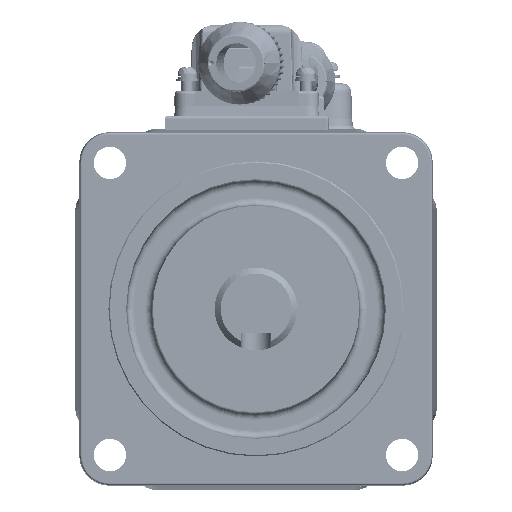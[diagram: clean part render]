
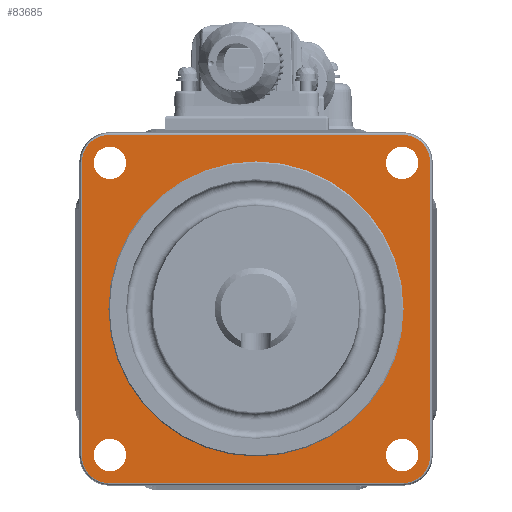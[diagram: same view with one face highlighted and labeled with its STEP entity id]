
A CAD part, front view. The second image highlights one B-rep face of the part: STEP entity #83685.
In plain terms, the highlighted planar face has unit normal (0, -1, 0).
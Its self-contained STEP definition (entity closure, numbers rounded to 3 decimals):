
#21202=CARTESIAN_POINT('',(55.45,-20.05,
-57.577));
#21203=DIRECTION('',(0.,-1.,0.));
#21204=DIRECTION('',(0.,0.,-1.));
#21205=AXIS2_PLACEMENT_3D('',#21202,#21203,#21204);
#21207=CARTESIAN_POINT('',(5.75,-20.05,
-57.577));
#21208=DIRECTION('',(0.,-1.,0.));
#21209=DIRECTION('',(-1.,0.,0.));
#21210=AXIS2_PLACEMENT_3D('',#21207,#21208,#21209);
#21212=CARTESIAN_POINT('',(5.75,-20.05,
-7.877));
#21213=DIRECTION('',(0.,-1.,0.));
#21214=DIRECTION('',(0.,0.,1.));
#21215=AXIS2_PLACEMENT_3D('',#21212,#21213,#21214);
#21217=CARTESIAN_POINT('',(55.45,-20.05,
-7.877));
#21218=DIRECTION('',(0.,-1.,0.));
#21219=DIRECTION('',(1.,0.,0.));
#21220=AXIS2_PLACEMENT_3D('',#21217,#21218,#21219);
#21222=CARTESIAN_POINT('',(30.6,-20.05,-32.727));
#21223=DIRECTION('',(0.,1.,0.));
#21224=DIRECTION('',(0.,0.,-1.));
#21225=AXIS2_PLACEMENT_3D('',#21222,#21223,#21224);
#21227=CARTESIAN_POINT('',(30.6,-20.05,-32.727));
#21228=DIRECTION('',(0.,1.,0.));
#21229=DIRECTION('',(0.,0.,1.));
#21230=AXIS2_PLACEMENT_3D('',#21227,#21228,#21229);
#21232=CARTESIAN_POINT('',(55.35,-20.05,-7.979));
#21233=DIRECTION('',(0.,1.,0.));
#21234=DIRECTION('',(-1.,0.,0.));
#21235=AXIS2_PLACEMENT_3D('',#21232,#21233,#21234);
#21237=CARTESIAN_POINT('',(55.35,-20.05,-7.979));
#21238=DIRECTION('',(0.,1.,0.));
#21239=DIRECTION('',(1.,0.,0.));
#21240=AXIS2_PLACEMENT_3D('',#21237,#21238,#21239);
#21242=CARTESIAN_POINT('',(55.35,-20.05,-57.474));
#21243=DIRECTION('',(0.,1.,0.));
#21244=DIRECTION('',(-1.,0.,0.));
#21245=AXIS2_PLACEMENT_3D('',#21242,#21243,#21244);
#21247=CARTESIAN_POINT('',(55.35,-20.05,-57.474));
#21248=DIRECTION('',(0.,1.,0.));
#21249=DIRECTION('',(1.,0.,0.));
#21250=AXIS2_PLACEMENT_3D('',#21247,#21248,#21249);
#21252=CARTESIAN_POINT('',(5.85,-20.05,-57.474));
#21253=DIRECTION('',(0.,1.,0.));
#21254=DIRECTION('',(-1.,0.,0.));
#21255=AXIS2_PLACEMENT_3D('',#21252,#21253,#21254);
#21257=CARTESIAN_POINT('',(5.85,-20.05,-57.474));
#21258=DIRECTION('',(0.,1.,0.));
#21259=DIRECTION('',(1.,0.,0.));
#21260=AXIS2_PLACEMENT_3D('',#21257,#21258,#21259);
#21262=CARTESIAN_POINT('',(5.85,-20.05,-7.979));
#21263=DIRECTION('',(0.,1.,0.));
#21264=DIRECTION('',(-1.,0.,0.));
#21265=AXIS2_PLACEMENT_3D('',#21262,#21263,#21264);
#21267=CARTESIAN_POINT('',(5.85,-20.05,-7.979));
#21268=DIRECTION('',(0.,1.,0.));
#21269=DIRECTION('',(1.,0.,0.));
#21270=AXIS2_PLACEMENT_3D('',#21267,#21268,#21269);
#21272=DIRECTION('',(1.,0.,0.));
#21273=VECTOR('',#21272,49.7);
#21274=CARTESIAN_POINT('',(5.75,-20.05,
-62.232));
#21275=LINE('',#21274,#21273);
#21336=DIRECTION('',(0.,0.,-1.));
#21337=VECTOR('',#21336,49.7);
#21338=CARTESIAN_POINT('',(1.095,-20.05,-7.877));
#21339=LINE('',#21338,#21337);
#21414=DIRECTION('',(-1.,0.,0.));
#21415=VECTOR('',#21414,49.7);
#21416=CARTESIAN_POINT('',(55.45,-20.05,
-3.221));
#21417=LINE('',#21416,#21415);
#21483=DIRECTION('',(0.,0.,1.));
#21484=VECTOR('',#21483,49.7);
#21485=CARTESIAN_POINT('',(60.105,-20.05,
-57.577));
#21486=LINE('',#21485,#21484);
#44524=CARTESIAN_POINT('',(55.45,-20.05,
-62.232));
#44525=CARTESIAN_POINT('',(60.105,-20.05,
-57.577));
#44526=VERTEX_POINT('',#44524);
#44527=VERTEX_POINT('',#44525);
#44528=CARTESIAN_POINT('',(5.75,-20.05,
-62.232));
#44529=VERTEX_POINT('',#44528);
#44530=CARTESIAN_POINT('',(1.095,-20.05,
-57.577));
#44531=VERTEX_POINT('',#44530);
#44532=CARTESIAN_POINT('',(1.095,-20.05,-7.877));
#44533=VERTEX_POINT('',#44532);
#44534=CARTESIAN_POINT('',(5.75,-20.05,-3.221));
#44535=VERTEX_POINT('',#44534);
#44536=CARTESIAN_POINT('',(55.45,-20.05,
-3.221));
#44537=VERTEX_POINT('',#44536);
#44538=CARTESIAN_POINT('',(60.105,-20.05,
-7.877));
#44539=VERTEX_POINT('',#44538);
#44540=CARTESIAN_POINT('',(30.6,-20.05,-57.727));
#44541=CARTESIAN_POINT('',(30.6,-20.05,-7.727));
#44542=VERTEX_POINT('',#44540);
#44543=VERTEX_POINT('',#44541);
#44544=CARTESIAN_POINT('',(52.6,-20.05,-7.979));
#44545=CARTESIAN_POINT('',(58.1,-20.05,-7.979));
#44546=VERTEX_POINT('',#44544);
#44547=VERTEX_POINT('',#44545);
#44548=CARTESIAN_POINT('',(52.6,-20.05,-57.474));
#44549=CARTESIAN_POINT('',(58.1,-20.05,-57.474));
#44550=VERTEX_POINT('',#44548);
#44551=VERTEX_POINT('',#44549);
#44552=CARTESIAN_POINT('',(3.1,-20.05,-57.474));
#44553=CARTESIAN_POINT('',(8.6,-20.05,-57.474));
#44554=VERTEX_POINT('',#44552);
#44555=VERTEX_POINT('',#44553);
#44556=CARTESIAN_POINT('',(3.1,-20.05,-7.979));
#44557=CARTESIAN_POINT('',(8.6,-20.05,-7.979));
#44558=VERTEX_POINT('',#44556);
#44559=VERTEX_POINT('',#44557);
#83633=CARTESIAN_POINT('',(30.6,-20.05,-32.727));
#83634=DIRECTION('',(0.,1.,0.));
#83635=DIRECTION('',(0.,0.,-1.));
#83636=AXIS2_PLACEMENT_3D('',#83633,#83634,#83635);
#83637=PLANE('',#83636);
#83638=ORIENTED_EDGE('',*,*,#83623,.F.);
#83640=ORIENTED_EDGE('',*,*,#83639,.F.);
#83642=ORIENTED_EDGE('',*,*,#83641,.F.);
#83644=ORIENTED_EDGE('',*,*,#83643,.F.);
#83646=ORIENTED_EDGE('',*,*,#83645,.F.);
#83648=ORIENTED_EDGE('',*,*,#83647,.F.);
#83650=ORIENTED_EDGE('',*,*,#83649,.F.);
#83652=ORIENTED_EDGE('',*,*,#83651,.F.);
#83653=EDGE_LOOP('',(#83638,#83640,#83642,#83644,#83646,#83648,#83650,#83652));
#83654=FACE_OUTER_BOUND('',#83653,.F.);
#83656=ORIENTED_EDGE('',*,*,#83655,.F.);
#83658=ORIENTED_EDGE('',*,*,#83657,.F.);
#83659=EDGE_LOOP('',(#83656,#83658));
#83660=FACE_BOUND('',#83659,.F.);
#83662=ORIENTED_EDGE('',*,*,#83661,.F.);
#83664=ORIENTED_EDGE('',*,*,#83663,.F.);
#83665=EDGE_LOOP('',(#83662,#83664));
#83666=FACE_BOUND('',#83665,.F.);
#83668=ORIENTED_EDGE('',*,*,#83667,.F.);
#83670=ORIENTED_EDGE('',*,*,#83669,.F.);
#83671=EDGE_LOOP('',(#83668,#83670));
#83672=FACE_BOUND('',#83671,.F.);
#83674=ORIENTED_EDGE('',*,*,#83673,.F.);
#83676=ORIENTED_EDGE('',*,*,#83675,.F.);
#83677=EDGE_LOOP('',(#83674,#83676));
#83678=FACE_BOUND('',#83677,.F.);
#83680=ORIENTED_EDGE('',*,*,#83679,.F.);
#83682=ORIENTED_EDGE('',*,*,#83681,.F.);
#83683=EDGE_LOOP('',(#83680,#83682));
#83684=FACE_BOUND('',#83683,.F.);
#21206=CIRCLE('',#21205,4.655);
#21211=CIRCLE('',#21210,4.655);
#21216=CIRCLE('',#21215,4.655);
#21221=CIRCLE('',#21220,4.655);
#21226=CIRCLE('',#21225,25.);
#21231=CIRCLE('',#21230,25.);
#21236=CIRCLE('',#21235,2.75);
#21241=CIRCLE('',#21240,2.75);
#21246=CIRCLE('',#21245,2.75);
#21251=CIRCLE('',#21250,2.75);
#21256=CIRCLE('',#21255,2.75);
#21261=CIRCLE('',#21260,2.75);
#21266=CIRCLE('',#21265,2.75);
#21271=CIRCLE('',#21270,2.75);
#83623=EDGE_CURVE('',#44526,#44527,#21206,.T.);
#83639=EDGE_CURVE('',#44529,#44526,#21275,.T.);
#83641=EDGE_CURVE('',#44531,#44529,#21211,.T.);
#83643=EDGE_CURVE('',#44533,#44531,#21339,.T.);
#83645=EDGE_CURVE('',#44535,#44533,#21216,.T.);
#83647=EDGE_CURVE('',#44537,#44535,#21417,.T.);
#83649=EDGE_CURVE('',#44539,#44537,#21221,.T.);
#83651=EDGE_CURVE('',#44527,#44539,#21486,.T.);
#83655=EDGE_CURVE('',#44542,#44543,#21226,.T.);
#83657=EDGE_CURVE('',#44543,#44542,#21231,.T.);
#83661=EDGE_CURVE('',#44546,#44547,#21236,.T.);
#83663=EDGE_CURVE('',#44547,#44546,#21241,.T.);
#83667=EDGE_CURVE('',#44550,#44551,#21246,.T.);
#83669=EDGE_CURVE('',#44551,#44550,#21251,.T.);
#83673=EDGE_CURVE('',#44554,#44555,#21256,.T.);
#83675=EDGE_CURVE('',#44555,#44554,#21261,.T.);
#83679=EDGE_CURVE('',#44558,#44559,#21266,.T.);
#83681=EDGE_CURVE('',#44559,#44558,#21271,.T.);
#83685=ADVANCED_FACE('',(#83654,#83660,#83666,#83672,#83678,#83684),#83637,.F.);
